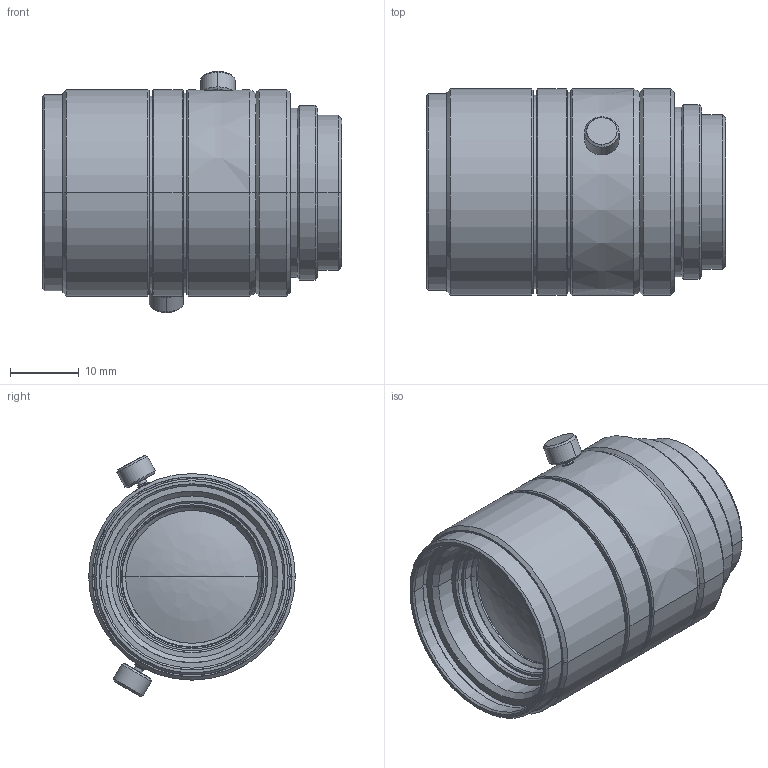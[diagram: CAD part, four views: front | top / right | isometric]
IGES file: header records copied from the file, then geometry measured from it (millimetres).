
Start section: SolidWorks IGES file using analytic representation for surfaces
Global section: file name: \\192.168.1.203\Development\06 俠俠俿倁儗儞僘\02 SV-H series\025 SV-2514H\3D\SV-2514H.IGS; native system: SolidWorks 2012; preprocessor: SolidWorks 2012; author: a-3DCAD2; date: 120601.164835; units: millimetre
Bounding box: 43.48 x 30 x 35.01 mm (x, y, z)
Surface area: 6403.7 mm2 (no closed solid volume)
Topology: 0 solids, 0 shells, 119 faces, 1854 edges, 1853 vertices
Faces by surface type: revolution 102, bspline 17
